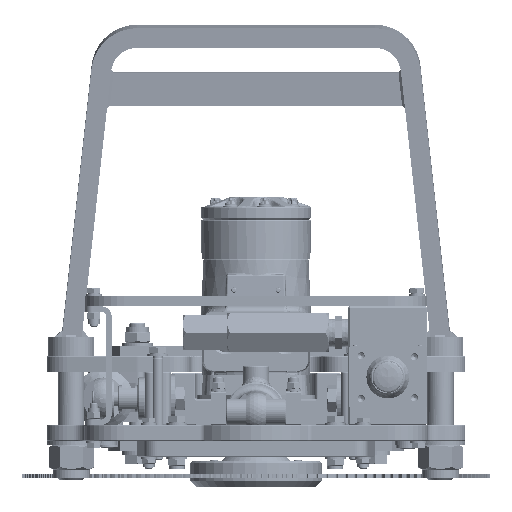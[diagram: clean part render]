
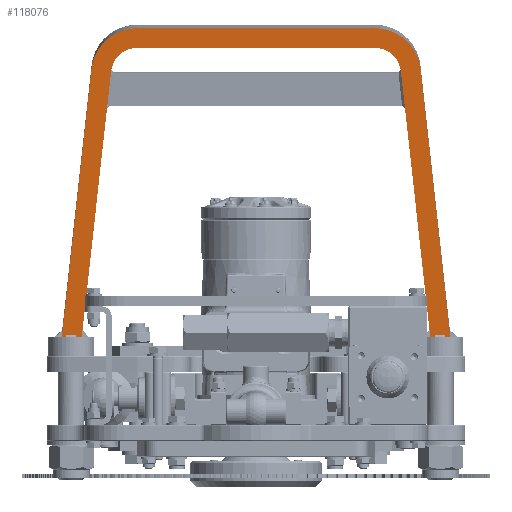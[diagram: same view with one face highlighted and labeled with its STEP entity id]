
A CAD part, front view. The second image highlights one B-rep face of the part: STEP entity #118076.
In plain terms, the highlighted planar face has unit normal (0, -0.996, -0.087).
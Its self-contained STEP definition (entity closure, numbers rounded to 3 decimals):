
#10006=LINE('',#191272,#18470);
#11455=LINE('',#200213,#19919);
#11457=LINE('',#200217,#19921);
#11460=LINE('',#200222,#19924);
#13325=LINE('',#214909,#21789);
#13326=LINE('',#214911,#21790);
#13330=LINE('',#214921,#21794);
#13336=LINE('',#214942,#21800);
#13340=LINE('',#214952,#21804);
#13342=LINE('',#214961,#21806);
#13343=LINE('',#214962,#21807);
#13344=LINE('',#214964,#21808);
#13345=LINE('',#214965,#21809);
#13346=LINE('',#214967,#21810);
#13347=LINE('',#214969,#21811);
#13348=LINE('',#214971,#21812);
#13349=LINE('',#214972,#21813);
#18470=VECTOR('',#144894,10.);
#19919=VECTOR('',#151321,10.);
#19921=VECTOR('',#151325,10.);
#19924=VECTOR('',#151330,10.);
#21789=VECTOR('',#160247,10.);
#21790=VECTOR('',#160250,10.);
#21794=VECTOR('',#160258,10.);
#21800=VECTOR('',#160278,10.);
#21804=VECTOR('',#160290,10.);
#21806=VECTOR('',#160300,10.);
#21807=VECTOR('',#160301,10.);
#21808=VECTOR('',#160302,10.);
#21809=VECTOR('',#160303,10.);
#21810=VECTOR('',#160304,10.);
#21811=VECTOR('',#160305,10.);
#21812=VECTOR('',#160306,10.);
#21813=VECTOR('',#160307,10.);
#30808=FACE_OUTER_BOUND('',#38391,.T.);
#38391=EDGE_LOOP('',(#102929,#102930,#102931,#102932,#102933,#102934,#102935,
#102936,#102937,#102938,#102939,#102940,#102941,#102942,#102943,#102944,
#102945,#102946,#102947,#102948,#102949));
#44512=CIRCLE('',#129919,20.);
#44514=CIRCLE('',#129922,35.);
#44516=CIRCLE('',#129926,35.);
#44518=CIRCLE('',#129930,20.);
#49669=VERTEX_POINT('',#191269);
#49670=VERTEX_POINT('',#191271);
#51775=VERTEX_POINT('',#200210);
#51776=VERTEX_POINT('',#200212);
#51777=VERTEX_POINT('',#200216);
#51778=VERTEX_POINT('',#200220);
#51830=VERTEX_POINT('',#200439);
#54863=VERTEX_POINT('',#214907);
#54866=VERTEX_POINT('',#214918);
#54867=VERTEX_POINT('',#214920);
#54869=VERTEX_POINT('',#214926);
#54872=VERTEX_POINT('',#214933);
#54873=VERTEX_POINT('',#214935);
#54875=VERTEX_POINT('',#214941);
#54877=VERTEX_POINT('',#214947);
#54879=VERTEX_POINT('',#214956);
#54880=VERTEX_POINT('',#214960);
#54881=VERTEX_POINT('',#214963);
#54882=VERTEX_POINT('',#214966);
#54883=VERTEX_POINT('',#214968);
#54884=VERTEX_POINT('',#214970);
#62949=EDGE_CURVE('',#49669,#49670,#10006,.T.);
#66231=EDGE_CURVE('',#51776,#51775,#11455,.T.);
#66233=EDGE_CURVE('',#51777,#51776,#11457,.T.);
#66236=EDGE_CURVE('',#51775,#51778,#11460,.T.);
#71156=EDGE_CURVE('',#51777,#54863,#13325,.T.);
#71157=EDGE_CURVE('',#51830,#51778,#13326,.T.);
#71161=EDGE_CURVE('',#54866,#54867,#13330,.T.);
#71164=EDGE_CURVE('',#54867,#54869,#44512,.T.);
#71168=EDGE_CURVE('',#54872,#54873,#44514,.T.);
#71171=EDGE_CURVE('',#54873,#54875,#13336,.T.);
#71174=EDGE_CURVE('',#54875,#54877,#44516,.T.);
#71177=EDGE_CURVE('',#54877,#49669,#13340,.T.);
#71180=EDGE_CURVE('',#54879,#54866,#44518,.T.);
#71181=EDGE_CURVE('',#54880,#49670,#13342,.T.);
#71182=EDGE_CURVE('',#54863,#54872,#13343,.T.);
#71183=EDGE_CURVE('',#51830,#54881,#13344,.T.);
#71184=EDGE_CURVE('',#54869,#54881,#13345,.T.);
#71185=EDGE_CURVE('',#54882,#54879,#13346,.T.);
#71186=EDGE_CURVE('',#54883,#54882,#13347,.T.);
#71187=EDGE_CURVE('',#54883,#54884,#13348,.T.);
#71188=EDGE_CURVE('',#54884,#54880,#13349,.T.);
#102929=ORIENTED_EDGE('',*,*,#71181,.T.);
#102930=ORIENTED_EDGE('',*,*,#62949,.F.);
#102931=ORIENTED_EDGE('',*,*,#71177,.F.);
#102932=ORIENTED_EDGE('',*,*,#71174,.F.);
#102933=ORIENTED_EDGE('',*,*,#71171,.F.);
#102934=ORIENTED_EDGE('',*,*,#71168,.F.);
#102935=ORIENTED_EDGE('',*,*,#71182,.F.);
#102936=ORIENTED_EDGE('',*,*,#71156,.F.);
#102937=ORIENTED_EDGE('',*,*,#66233,.T.);
#102938=ORIENTED_EDGE('',*,*,#66231,.T.);
#102939=ORIENTED_EDGE('',*,*,#66236,.T.);
#102940=ORIENTED_EDGE('',*,*,#71157,.F.);
#102941=ORIENTED_EDGE('',*,*,#71183,.T.);
#102942=ORIENTED_EDGE('',*,*,#71184,.F.);
#102943=ORIENTED_EDGE('',*,*,#71164,.F.);
#102944=ORIENTED_EDGE('',*,*,#71161,.F.);
#102945=ORIENTED_EDGE('',*,*,#71180,.F.);
#102946=ORIENTED_EDGE('',*,*,#71185,.F.);
#102947=ORIENTED_EDGE('',*,*,#71186,.F.);
#102948=ORIENTED_EDGE('',*,*,#71187,.T.);
#102949=ORIENTED_EDGE('',*,*,#71188,.T.);
#111835=PLANE('',#129931);
#118076=ADVANCED_FACE('',(#30808),#111835,.F.);
#129919=AXIS2_PLACEMENT_3D('',#214927,#160264,#160265);
#129922=AXIS2_PLACEMENT_3D('',#214936,#160272,#160273);
#129926=AXIS2_PLACEMENT_3D('',#214948,#160284,#160285);
#129930=AXIS2_PLACEMENT_3D('',#214958,#160296,#160297);
#129931=AXIS2_PLACEMENT_3D('',#214959,#160298,#160299);
#144894=DIRECTION('',(-1.,0.,0.));
#151321=DIRECTION('',(1.,0.,0.));
#151325=DIRECTION('',(0.,-0.087,0.996));
#151330=DIRECTION('',(0.,0.087,-0.996));
#160247=DIRECTION('',(-1.,0.,0.));
#160250=DIRECTION('',(-1.,0.,0.));
#160258=DIRECTION('',(-1.,0.,0.));
#160264=DIRECTION('center_axis',(0.,-0.996,
-0.087));
#160265=DIRECTION('ref_axis',(-0.994,-0.01,0.109));
#160272=DIRECTION('center_axis',(0.,0.996,
0.087));
#160273=DIRECTION('ref_axis',(0.994,0.01,-0.109));
#160278=DIRECTION('',(1.,0.,0.));
#160284=DIRECTION('center_axis',(0.,0.996,
0.087));
#160285=DIRECTION('ref_axis',(0.,0.087,
-0.996));
#160290=DIRECTION('',(0.11,0.087,-0.99));
#160296=DIRECTION('center_axis',(0.,-0.996,
-0.087));
#160297=DIRECTION('ref_axis',(0.,-0.087,
0.996));
#160298=DIRECTION('center_axis',(0.,0.996,
0.087));
#160299=DIRECTION('ref_axis',(-1.,0.,0.));
#160300=DIRECTION('',(0.,0.087,-0.996));
#160301=DIRECTION('',(0.11,-0.087,0.99));
#160302=DIRECTION('',(1.,0.,0.));
#160303=DIRECTION('',(-0.11,0.087,-0.99));
#160304=DIRECTION('',(-0.11,-0.087,0.99));
#160305=DIRECTION('',(-1.,0.,0.));
#160306=DIRECTION('',(0.,-0.087,0.996));
#160307=DIRECTION('',(1.,0.,0.));
#191269=CARTESIAN_POINT('',(147.256,-343.807,47.));
#191271=CARTESIAN_POINT('',(143.71,-343.807,47.));
#191272=CARTESIAN_POINT('',(74.291,-343.807,47.));
#200210=CARTESIAN_POINT('',(-136.29,-343.938,48.494));
#200212=CARTESIAN_POINT('',(-143.999,-343.938,48.494));
#200213=CARTESIAN_POINT('',(-65.709,-343.938,48.494));
#200216=CARTESIAN_POINT('',(-143.999,-343.807,47.));
#200217=CARTESIAN_POINT('',(-143.999,-350.129,119.254));
#200220=CARTESIAN_POINT('',(-136.29,-343.807,47.));
#200222=CARTESIAN_POINT('',(-136.29,-350.129,119.254));
#200439=CARTESIAN_POINT('',(-132.253,-343.807,47.));
#214907=CARTESIAN_POINT('',(-147.256,-343.807,47.));
#214909=CARTESIAN_POINT('',(-65.709,-343.807,47.));
#214911=CARTESIAN_POINT('',(-65.709,-343.807,47.));
#214918=CARTESIAN_POINT('',(90.,-362.971,266.039));
#214920=CARTESIAN_POINT('',(-90.,-362.971,266.039));
#214921=CARTESIAN_POINT('',(-90.,-362.971,266.039));
#214926=CARTESIAN_POINT('',(-109.879,-361.419,248.299));
#214927=CARTESIAN_POINT('Origin',(-90.,-361.227,246.115));
#214933=CARTESIAN_POINT('',(-124.789,-361.562,249.937));
#214935=CARTESIAN_POINT('',(-90.,-364.278,280.982));
#214936=CARTESIAN_POINT('Origin',(-90.,-361.227,246.115));
#214941=CARTESIAN_POINT('',(90.,-364.278,280.982));
#214942=CARTESIAN_POINT('',(90.,-364.278,280.982));
#214947=CARTESIAN_POINT('',(124.789,-361.562,249.937));
#214948=CARTESIAN_POINT('Origin',(90.,-361.227,246.115));
#214952=CARTESIAN_POINT('',(147.545,-343.578,44.385));
#214956=CARTESIAN_POINT('',(109.879,-361.419,248.299));
#214958=CARTESIAN_POINT('Origin',(90.,-361.227,246.115));
#214959=CARTESIAN_POINT('Origin',(0.,-356.45,
191.509));
#214960=CARTESIAN_POINT('',(143.71,-343.938,48.494));
#214961=CARTESIAN_POINT('',(143.71,-350.129,119.254));
#214962=CARTESIAN_POINT('',(-124.789,-361.562,249.937));
#214963=CARTESIAN_POINT('',(-132.165,-343.807,47.));
#214964=CARTESIAN_POINT('',(0.,-343.807,47.));
#214965=CARTESIAN_POINT('',(-132.455,-343.578,44.385));
#214966=CARTESIAN_POINT('',(132.165,-343.807,47.));
#214967=CARTESIAN_POINT('',(109.879,-361.419,248.299));
#214968=CARTESIAN_POINT('',(136.001,-343.807,47.));
#214969=CARTESIAN_POINT('',(74.291,-343.807,47.));
#214970=CARTESIAN_POINT('',(136.001,-343.938,48.494));
#214971=CARTESIAN_POINT('',(136.001,-350.129,119.254));
#214972=CARTESIAN_POINT('',(68.,-343.938,48.494));
